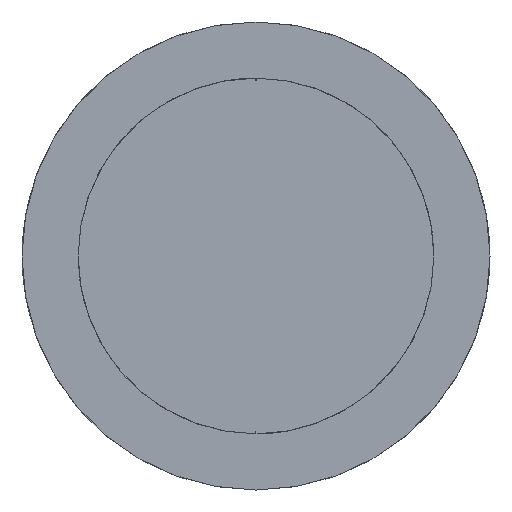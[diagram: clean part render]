
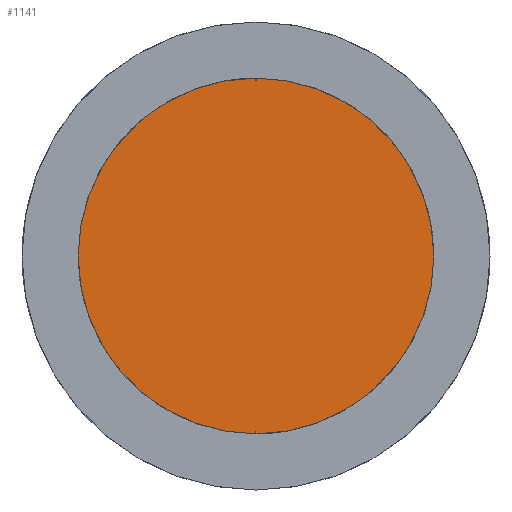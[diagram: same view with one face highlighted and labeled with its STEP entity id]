
A CAD part, left-side view. The second image highlights one B-rep face of the part: STEP entity #1141.
In plain terms, the highlighted planar face has unit normal (-1, 0, 0).
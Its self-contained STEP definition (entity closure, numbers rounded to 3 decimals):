
#1073=CARTESIAN_POINT('Vertex',(0.,0.,9.5)) ;
#1080=CARTESIAN_POINT('Vertex',(0.,0.,-9.5)) ;
#1083=CARTESIAN_POINT('Axis2P3D Location',(0.,0.,0.)) ;
#1087=CARTESIAN_POINT('Vertex',(0.,9.5,0.)) ;
#1090=CARTESIAN_POINT('Axis2P3D Location',(0.,0.,0.)) ;
#1109=CARTESIAN_POINT('Axis2P3D Location',(0.,0.,0.)) ;
#1113=CARTESIAN_POINT('Vertex',(0.,-9.5,0.)) ;
#1116=CARTESIAN_POINT('Axis2P3D Location',(0.,0.,0.)) ;
#1130=CARTESIAN_POINT('Axis2P3D Location',(0.,0.,0.)) ;
#1084=DIRECTION('Axis2P3D Direction',(-1.,0.,0.)) ;
#1091=DIRECTION('Axis2P3D Direction',(-1.,0.,0.)) ;
#1110=DIRECTION('Axis2P3D Direction',(-1.,0.,0.)) ;
#1117=DIRECTION('Axis2P3D Direction',(-1.,0.,0.)) ;
#1131=DIRECTION('Axis2P3D Direction',(1.,0.,-0.)) ;
#1132=DIRECTION('Axis2P3D XDirection',(-0.,0.,-1.)) ;
#1085=AXIS2_PLACEMENT_3D('Circle Axis2P3D',#1083,#1084,$) ;
#1092=AXIS2_PLACEMENT_3D('Circle Axis2P3D',#1090,#1091,$) ;
#1111=AXIS2_PLACEMENT_3D('Circle Axis2P3D',#1109,#1110,$) ;
#1118=AXIS2_PLACEMENT_3D('Circle Axis2P3D',#1116,#1117,$) ;
#1133=AXIS2_PLACEMENT_3D('Plane Axis2P3D',#1130,#1131,#1132) ;
#1136=ORIENTED_EDGE('',*,*,#1089,.F.) ;
#1137=ORIENTED_EDGE('',*,*,#1120,.F.) ;
#1138=ORIENTED_EDGE('',*,*,#1115,.F.) ;
#1139=ORIENTED_EDGE('',*,*,#1094,.F.) ;
#1141=ADVANCED_FACE('CF-VPA25',(#1140),#1134,.F.) ;
#1086=CIRCLE('generated circle',#1085,9.5) ;
#1093=CIRCLE('generated circle',#1092,9.5) ;
#1112=CIRCLE('generated circle',#1111,9.5) ;
#1119=CIRCLE('generated circle',#1118,9.5) ;
#1089=EDGE_CURVE('',#1081,#1088,#1086,.F.) ;
#1094=EDGE_CURVE('',#1088,#1074,#1093,.F.) ;
#1115=EDGE_CURVE('',#1074,#1114,#1112,.F.) ;
#1120=EDGE_CURVE('',#1114,#1081,#1119,.F.) ;
#1135=EDGE_LOOP('',(#1136,#1137,#1138,#1139)) ;
#1140=FACE_OUTER_BOUND('',#1135,.T.) ;
#1134=PLANE('Plane',#1133) ;
#1074=VERTEX_POINT('',#1073) ;
#1081=VERTEX_POINT('',#1080) ;
#1088=VERTEX_POINT('',#1087) ;
#1114=VERTEX_POINT('',#1113) ;
